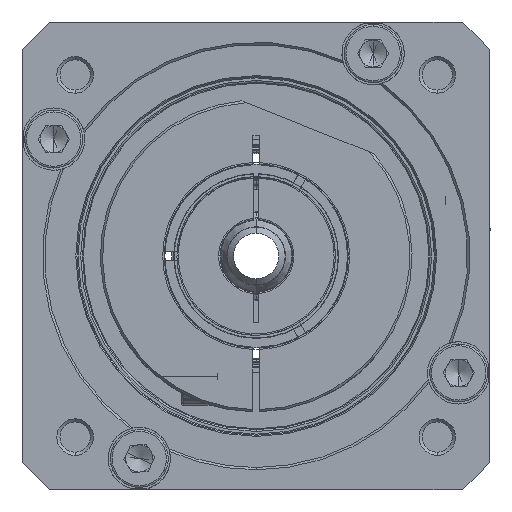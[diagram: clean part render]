
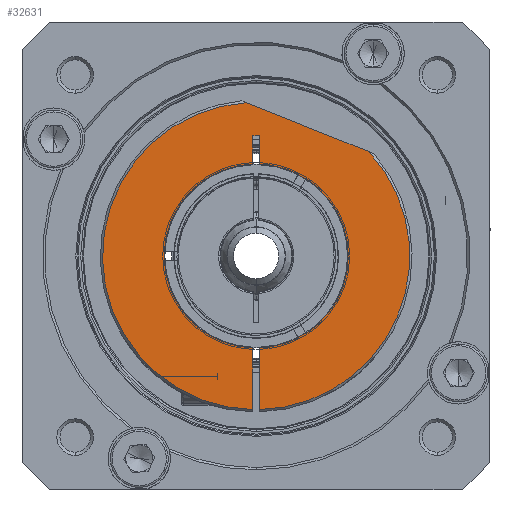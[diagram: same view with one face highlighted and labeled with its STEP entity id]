
A CAD part, left-side view. The second image highlights one B-rep face of the part: STEP entity #32631.
In plain terms, the highlighted planar face has unit normal (-1, 0, 0).
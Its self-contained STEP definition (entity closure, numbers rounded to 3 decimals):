
#171 = VERTEX_POINT ( 'NONE', #56237 ) ;
#554 = FACE_OUTER_BOUND ( 'NONE', #7657, .T. ) ;
#914 = CARTESIAN_POINT ( 'NONE',  ( -139.97, -0.75, 27. ) ) ;
#2849 = VERTEX_POINT ( 'NONE', #32759 ) ;
#3375 = VERTEX_POINT ( 'NONE', #21159 ) ;
#4804 = AXIS2_PLACEMENT_3D ( 'NONE', #14109, #9432, #42708 ) ;
#5477 = VECTOR ( 'NONE', #29833, 1000. ) ;
#5696 = VERTEX_POINT ( 'NONE', #27627 ) ;
#5862 = CARTESIAN_POINT ( 'NONE',  ( -139.97, 0., 0. ) ) ;
#5877 = DIRECTION ( 'NONE',  ( 1., 0., 0. ) ) ;
#5878 = DIRECTION ( 'NONE',  ( 0., 0., 1. ) ) ;
#6638 = ORIENTED_EDGE ( 'NONE', *, *, #45548, .T. ) ;
#7657 = EDGE_LOOP ( 'NONE', ( #59979, #6638, #57306, #50992, #21699, #31354, #42240, #36416, #41354, #22921 ) ) ;
#7778 = EDGE_CURVE ( 'NONE', #47875, #10982, #29122, .T. ) ;
#8451 = CARTESIAN_POINT ( 'NONE',  ( -139.97, 0., 0. ) ) ;
#9367 = AXIS2_PLACEMENT_3D ( 'NONE', #42875, #5877, #47533 ) ;
#9432 = DIRECTION ( 'NONE',  ( -1., 0., 0. ) ) ;
#9815 = CIRCLE ( 'NONE', #4804, 34.5 ) ;
#10375 = CIRCLE ( 'NONE', #9367, 20.6 ) ;
#10470 = VECTOR ( 'NONE', #33225, 1000. ) ;
#10982 = VERTEX_POINT ( 'NONE', #33298 ) ;
#14109 = CARTESIAN_POINT ( 'NONE',  ( -139.97, 0., 0. ) ) ;
#14948 = VERTEX_POINT ( 'NONE', #18986 ) ;
#18264 = VECTOR ( 'NONE', #5878, 1000. ) ;
#18929 = LINE ( 'NONE', #42300, #10470 ) ;
#18986 = CARTESIAN_POINT ( 'NONE',  ( -139.97, 0.75, 20.586 ) ) ;
#19313 = CARTESIAN_POINT ( 'NONE',  ( -139.97, 0.75, 27. ) ) ;
#21159 = CARTESIAN_POINT ( 'NONE',  ( -139.97, 0.75, -34.492 ) ) ;
#21699 = ORIENTED_EDGE ( 'NONE', *, *, #43682, .T. ) ;
#21701 = VECTOR ( 'NONE', #42014, 1000. ) ;
#21719 = DIRECTION ( 'NONE',  ( 0., 0., 1. ) ) ;
#22866 = DIRECTION ( 'NONE',  ( 0., 0., -1. ) ) ;
#22921 = ORIENTED_EDGE ( 'NONE', *, *, #58758, .T. ) ;
#23604 = LINE ( 'NONE', #57804, #18264 ) ;
#23640 = AXIS2_PLACEMENT_3D ( 'NONE', #5862, #43167, #47515 ) ;
#23645 = DIRECTION ( 'NONE',  ( 0., 0., -1. ) ) ;
#25074 = CARTESIAN_POINT ( 'NONE',  ( -139.97, -0.75, 27. ) ) ;
#25666 = EDGE_CURVE ( 'NONE', #10982, #60599, #41744, .T. ) ;
#26209 = CARTESIAN_POINT ( 'NONE',  ( -139.97, -0.75, -34.492 ) ) ;
#26578 = VECTOR ( 'NONE', #23645, 1000. ) ;
#27384 = DIRECTION ( 'NONE',  ( 0., 0., -1. ) ) ;
#27627 = CARTESIAN_POINT ( 'NONE',  ( -139.97, -25.35, 23.401 ) ) ;
#29122 = LINE ( 'NONE', #25074, #21701 ) ;
#29488 = LINE ( 'NONE', #48493, #26578 ) ;
#29833 = DIRECTION ( 'NONE',  ( 0., -1., 0. ) ) ;
#31354 = ORIENTED_EDGE ( 'NONE', *, *, #37227, .T. ) ;
#32631 = ADVANCED_FACE ( 'NONE', ( #554 ), #39136, .F. ) ;
#32759 = CARTESIAN_POINT ( 'NONE',  ( -139.97, 2.155, 34.433 ) ) ;
#33133 = EDGE_CURVE ( 'NONE', #2849, #3375, #9815, .T. ) ;
#33225 = DIRECTION ( 'NONE',  ( 0., 0.928, 0.372 ) ) ;
#33298 = CARTESIAN_POINT ( 'NONE',  ( -139.97, -0.75, 20.586 ) ) ;
#33745 = AXIS2_PLACEMENT_3D ( 'NONE', #8451, #46402, #27384 ) ;
#35984 = CARTESIAN_POINT ( 'NONE',  ( -139.97, -0.75, -20.586 ) ) ;
#36027 = CARTESIAN_POINT ( 'NONE',  ( -139.97, 0.75, 27. ) ) ;
#36416 = ORIENTED_EDGE ( 'NONE', *, *, #7778, .T. ) ;
#36887 = DIRECTION ( 'NONE',  ( -1., 0., 0. ) ) ;
#36934 = AXIS2_PLACEMENT_3D ( 'NONE', #47422, #36887, #22866 ) ;
#37227 = EDGE_CURVE ( 'NONE', #14948, #171, #58453, .T. ) ;
#39052 = VECTOR ( 'NONE', #21719, 1000. ) ;
#39136 = PLANE ( 'NONE',  #23640 ) ;
#41354 = ORIENTED_EDGE ( 'NONE', *, *, #25666, .T. ) ;
#41744 = CIRCLE ( 'NONE', #33745, 20.6 ) ;
#42014 = DIRECTION ( 'NONE',  ( 0., 0., -1. ) ) ;
#42240 = ORIENTED_EDGE ( 'NONE', *, *, #44467, .T. ) ;
#42300 = CARTESIAN_POINT ( 'NONE',  ( -139.97, 3.203, 34.853 ) ) ;
#42708 = DIRECTION ( 'NONE',  ( 0., 0., -1. ) ) ;
#42875 = CARTESIAN_POINT ( 'NONE',  ( -139.97, 0., 0. ) ) ;
#43167 = DIRECTION ( 'NONE',  ( 1., 0., 0. ) ) ;
#43682 = EDGE_CURVE ( 'NONE', #59844, #14948, #10375, .T. ) ;
#44467 = EDGE_CURVE ( 'NONE', #171, #47875, #52583, .T. ) ;
#45548 = EDGE_CURVE ( 'NONE', #5696, #2849, #18929, .T. ) ;
#46402 = DIRECTION ( 'NONE',  ( 1., 0., 0. ) ) ;
#47422 = CARTESIAN_POINT ( 'NONE',  ( -139.97, 0., 0. ) ) ;
#47515 = DIRECTION ( 'NONE',  ( 0., 0., -1. ) ) ;
#47533 = DIRECTION ( 'NONE',  ( 0., 0., -1. ) ) ;
#47875 = VERTEX_POINT ( 'NONE', #914 ) ;
#48493 = CARTESIAN_POINT ( 'NONE',  ( -139.97, -0.75, 27. ) ) ;
#50787 = EDGE_CURVE ( 'NONE', #51662, #5696, #56749, .T. ) ;
#50992 = ORIENTED_EDGE ( 'NONE', *, *, #55925, .T. ) ;
#51662 = VERTEX_POINT ( 'NONE', #26209 ) ;
#52583 = LINE ( 'NONE', #19313, #5477 ) ;
#55925 = EDGE_CURVE ( 'NONE', #3375, #59844, #23604, .T. ) ;
#56237 = CARTESIAN_POINT ( 'NONE',  ( -139.97, 0.75, 27. ) ) ;
#56749 = CIRCLE ( 'NONE', #36934, 34.5 ) ;
#57306 = ORIENTED_EDGE ( 'NONE', *, *, #33133, .T. ) ;
#57457 = CARTESIAN_POINT ( 'NONE',  ( -139.97, 0.75, -20.586 ) ) ;
#57804 = CARTESIAN_POINT ( 'NONE',  ( -139.97, 0.75, 27. ) ) ;
#58453 = LINE ( 'NONE', #36027, #39052 ) ;
#58758 = EDGE_CURVE ( 'NONE', #60599, #51662, #29488, .T. ) ;
#59844 = VERTEX_POINT ( 'NONE', #57457 ) ;
#59979 = ORIENTED_EDGE ( 'NONE', *, *, #50787, .T. ) ;
#60599 = VERTEX_POINT ( 'NONE', #35984 ) ;
